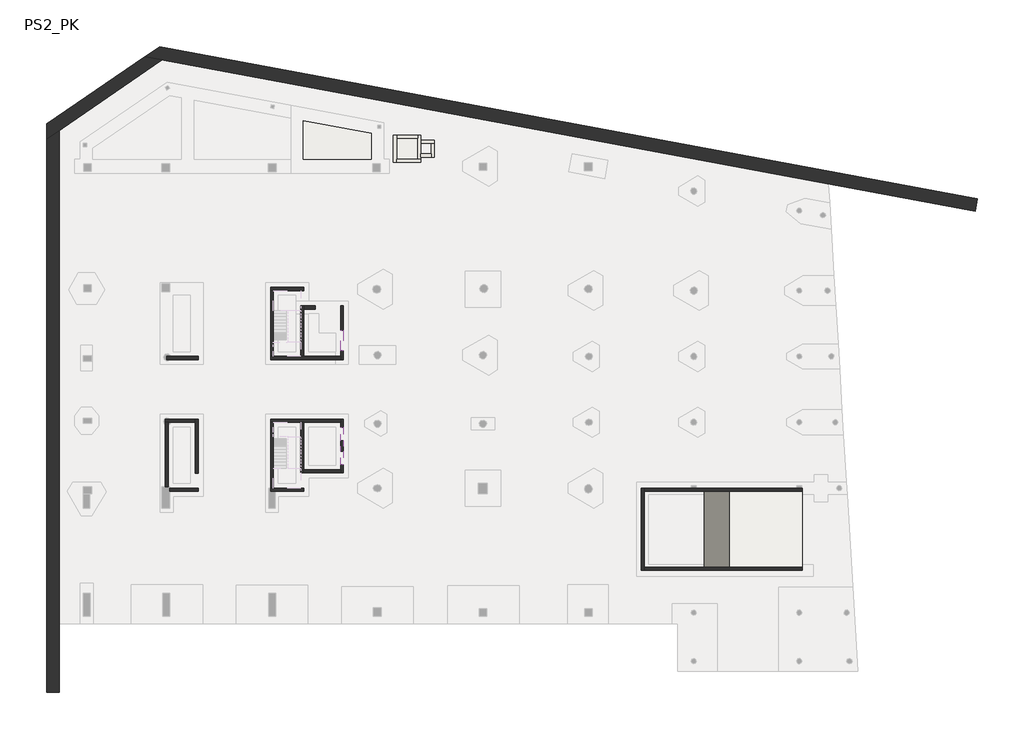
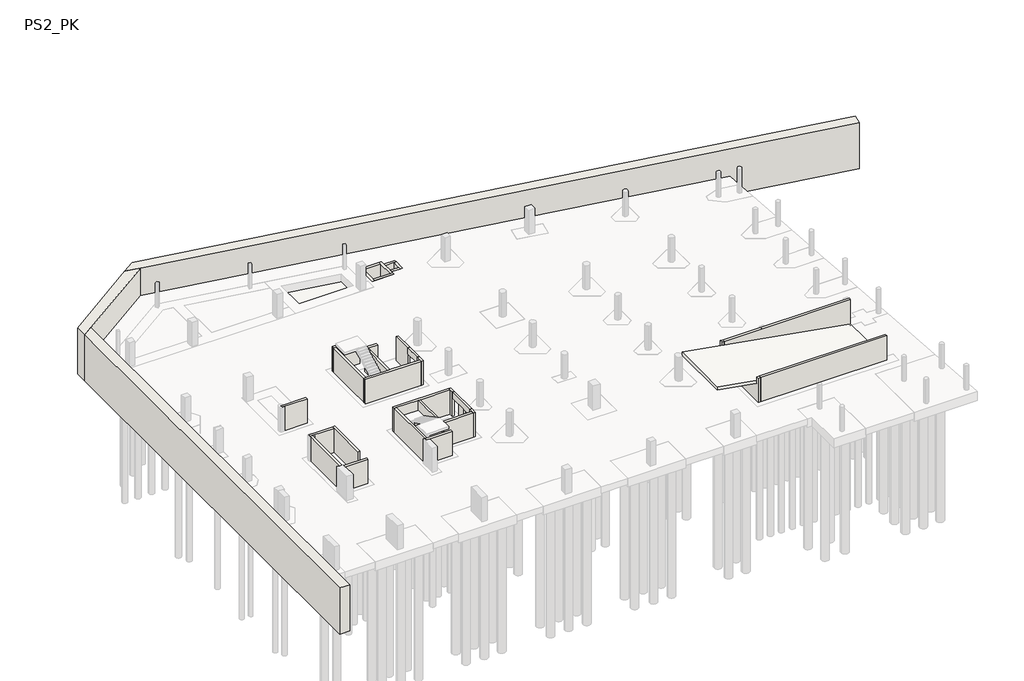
# One storey, part 1 of 10: 36 walls, 3 slabs.
"""IFC4 building model written with IfcOpenShell, lengths in millimetres."""

from ifc_helpers import new_model, si_unit, frame, origin, place, context, project, spatial, polyline, outline, extrude, faceted_brep, element, save

model = new_model("IFC4")

# Units and contexts
model_context = context("Model", 3, world=origin())
ifc_project = project(units=[si_unit("LENGTHUNIT", "METRE", prefix="MILLI")], contexts=[model_context])

# Site, building, storey
site = spatial("IfcSite", under=ifc_project)
building = spatial("IfcBuilding", under=site)
storey = spatial("IfcBuildingStorey", under=building, Name="PS2_PK", Elevation=-1600.0)

# Slabs
placement = place(None, origin())
element("IfcSlab", 1, ObjectType="Forjat_Llosa-Formigo-400", at=placement, inside=storey, context=model_context, shape_type="Brep", body=[
    faceted_brep([(16784.7045006, -12385.1038366, 1444.0923762), (16784.7044979, -5185.1036851, 1444.0923767), (34431.6189422, -5185.1036785, -1600.0), (34431.6189422, -5485.1635205, -1600.0), (36784.7068971, -5485.1664969, -2005.9076236), (36784.7068971, -12085.1664975, -2005.9076236), (34431.6189422, -12085.1635211, -1600.0), (34431.6189422, -12385.1038301, -1600.0), (36784.7068971, -5185.1036777, -1600.0), (16784.7044979, -5185.1036851, 1850.0000002), (16784.7045006, -12385.1038366, 1849.9999998), (36784.7068971, -12385.1038292, -1600.0), (36784.7068971, -12085.1664975, -1600.0), (36784.7068971, -5485.1664969, -1600.0)], [[[0, 1, 2, 3, 4, 5, 6, 7]], [[8, 9, 10, 11, 12, 13]], [[9, 8, 2, 1]], [[5, 4, 13, 12]], [[11, 10, 0, 7]], [[1, 0, 10, 9]], [[13, 3, 2, 8]], [[6, 12, 11, 7]], [[3, 13, 4]], [[12, 6, 5]]]),
])
element("IfcSlab", 2, ObjectType="Forjat_Llosa-Formigo-400", at=placement, inside=storey, context=model_context, shape_type="SweptSolid", body=[
    extrude(outline(polyline([(-4119.7553151, 28790.9345659), (-4119.7583398, 26314.885525), (-10544.7608402, 26314.8933703), (-10544.7563485, 29993.8823621), (-4119.7553151, 28790.9345659)])), frame((0.0, 0.0, -3000.0), z_axis=(0.0, 0.0, 1.0), x_axis=(1.0, 0.0, 0.0)), (0.0, 0.0, 1.0), 400.0),
])
element("IfcSlab", 3, ObjectType="Forjat_Llosa-Formigo-400", at=placement, inside=storey, context=model_context, shape_type="SweptSolid", body=[
    extrude(outline(polyline([(584.7174486, 28621.4250168), (584.7174486, 26014.879291), (-2015.2792535, 26014.879291), (-2015.2792535, 28621.4250168), (584.7174486, 28621.4250168)])), frame((0.0, 0.0, -4300.0), z_axis=(0.0, 0.0, 1.0), x_axis=(1.0, 0.0, 0.0)), (0.0, 0.0, 1.0), 400.0),
])

# Walls
element("IfcWall", 4, ObjectType="0_Muro Contención_1200", at=placement, inside=storey, context=model_context, shape_type="Brep", body=[
    faceted_brep([(-25599.5706602, 36054.4245087, -3945.0), (-23930.3270635, 35743.361696, -3945.0), (53175.6126098, 21374.7036312, -3945.0), (53175.6126098, 21374.7036312, 1850.0), (-23930.3270635, 35743.361696, 1850.0), (-25599.5706602, 36054.4245087, 1850.0), (-24198.7607616, 37014.0420818, -3945.0), (-24198.7607616, 37014.0420818, 1850.0), (53395.447645, 22554.3953525, 1850.0), (53395.447645, 22554.3953525, -3945.0)], [[[0, 1, 2, 3, 4, 5]], [[6, 7, 8, 9]], [[2, 1, 0, 6, 9]], [[3, 2, 9, 8]], [[5, 4, 3, 8, 7]], [[0, 5, 7, 6]]]),
])
element("IfcWall", 5, ObjectType="0_Muro Contención_1200", at=placement, inside=storey, context=model_context, shape_type="Brep", body=[
    faceted_brep([(-34917.5141758, 28216.6460137, -3945.0), (-33717.5141758, 29038.6998048, -3945.0), (-23930.3270635, 35743.361696, -3945.0), (-23930.3270635, 35743.361696, 1850.0), (-33717.5141758, 29038.6998048, 1850.0), (-34917.5141758, 28216.6460137, 1850.0), (-34917.5141758, 29671.2155155, -3945.0), (-34917.5141758, 29671.2155155, 1850.0), (-25599.5706602, 36054.4245087, 1850.0), (-25599.5706602, 36054.4245087, -3945.0)], [[[0, 1, 2, 3, 4, 5]], [[6, 7, 8, 9]], [[2, 1, 0, 6, 9]], [[5, 4, 3, 8, 7]], [[3, 2, 9, 8]], [[0, 5, 7, 6]]]),
])
element("IfcWall", 6, ObjectType="0_Muro Contención_1200", at=placement, inside=storey, context=model_context, shape_type="SweptSolid", body=[
    extrude(outline(polyline([(-34917.5141758, -24244.1958048), (-34917.5141758, 28216.6460137), (-33717.5141758, 29038.6998048), (-33717.5141758, -24244.1958048), (-34917.5141758, -24244.1958048)])), frame((0.0, 0.0, -3945.0), z_axis=(0.0, 0.0, 1.0), x_axis=(1.0, 0.0, 0.0)), (0.0, 0.0, 1.0), 5795.0),
])
element("IfcWall", 7, ObjectType="0_Muro Concreto_250", at=placement, inside=storey, context=model_context, shape_type="Brep", body=[
    faceted_brep([(-20790.2931065, 1664.8960619, -1600.0), (-20790.2931065, 1364.8960619, -1600.0), (-20790.2931065, -3485.1039381, -1600.0), (-20790.2931065, -3485.1039381, 1450.0), (-20790.2931065, 1364.8960619, 1450.0), (-20790.2931065, 1664.8960619, 1450.0), (-20540.2931065, 1664.8960619, -1600.0), (-20540.2931065, 1664.8960619, 1450.0), (-20540.2931065, -3485.1039381, 1450.0), (-20540.2931065, -3485.1039381, -1600.0)], [[[0, 1, 2, 3, 4, 5]], [[6, 7, 8, 9]], [[2, 1, 0, 6, 9]], [[3, 2, 9, 8]], [[5, 4, 3, 8, 7]], [[0, 5, 7, 6]]]),
])
element("IfcWall", 8, ObjectType="0_Muro Concreto_250", at=placement, inside=storey, context=model_context, shape_type="SweptSolid", body=[
    extrude(outline(polyline([(-23640.2931065, 1364.8960619), (-23390.2931065, 1364.8960619), (-23390.2931065, -4735.0918796), (-23640.2931065, -4735.0915635), (-23640.2931065, 1364.8960619)])), frame((0.0, 0.0, -1600.0), z_axis=(0.0, 0.0, 1.0), x_axis=(1.0, 0.0, 0.0)), (0.0, 0.0, 1.0), 3050.0),
])
element("IfcWall", 9, ObjectType="0_Muro Concreto_250", at=placement, inside=storey, context=model_context, shape_type="SweptSolid", body=[
    extrude(outline(polyline([(-13640.3216429, 7614.8960673), (-13640.3216429, 13864.8960687), (-13390.3216429, 13864.8960687), (-13390.3216429, 7614.8960673), (-13640.3216429, 7614.8960673)])), frame((0.0, 0.0, -1600.0), z_axis=(0.0, 0.0, 1.0), x_axis=(1.0, 0.0, 0.0)), (0.0, 0.0, 1.0), 3050.0),
])
element("IfcWall", 10, ObjectType="0_Muro Concreto_250", at=placement, inside=storey, context=model_context, shape_type="Brep", body=[
    faceted_brep([(-10790.2146087, 12414.8934136, -1600.0), (-10790.2146087, 7614.8960673, -1600.0), (-10790.2146087, 7614.8960673, 1450.0), (-10790.2146087, 12414.8934136, 1450.0), (-10540.2146087, 12414.8934136, -1600.0), (-10540.2146087, 12414.8934136, 1450.0), (-10540.2146087, 12114.8934136, 1450.0), (-10540.2146087, 7614.8960673, 1450.0), (-10540.2146087, 7614.8960673, -1600.0), (-10540.2146087, 12114.8934136, -1600.0)], [[[0, 1, 2, 3]], [[4, 5, 6, 7, 8, 9]], [[1, 0, 4, 9, 8]], [[3, 2, 7, 6, 5]], [[2, 1, 8, 7]], [[0, 3, 5, 4]]]),
])
element("IfcWall", 11, ObjectType="0_Muro Concreto_250", at=placement, inside=storey, context=model_context, shape_type="SweptSolid", body=[
    extrude(outline(polyline([(-13390.3216429, 1364.8960692), (-13390.3216429, -4885.1039323), (-13640.3216429, -4885.1039323), (-13640.3216429, 1364.8960692), (-13390.3216429, 1364.8960692)])), frame((0.0, 0.0, -1600.0), z_axis=(0.0, 0.0, 1.0), x_axis=(1.0, 0.0, 0.0)), (0.0, 0.0, 1.0), 3050.0),
])
element("IfcWall", 12, ObjectType="0_Muro Concreto_250", at=placement, inside=storey, context=model_context, shape_type="Brep", body=[
    faceted_brep([(-10540.2146087, -3435.1012772, -1600.0), (-10540.2146087, -3135.1012772, -1600.0), (-10540.2146087, 1364.8960692, -1600.0), (-10540.2146087, 1364.8960692, 1450.0), (-10540.2146087, -3135.1012772, 1450.0), (-10540.2146087, -3435.1012772, 1450.0), (-10790.2146087, -3435.1012772, -1600.0), (-10790.2146087, -3435.1012772, 1450.0), (-10790.2146087, 1364.8960692, 1450.0), (-10790.2146087, 1364.8960692, -1600.0)], [[[0, 1, 2, 3, 4, 5]], [[6, 7, 8, 9]], [[2, 1, 0, 6, 9]], [[5, 4, 3, 8, 7]], [[3, 2, 9, 8]], [[0, 5, 7, 6]]]),
])
element("IfcWall", 13, ObjectType="0_Muro Concreto_250", at=placement, inside=storey, context=model_context, shape_type="Brep", body=[
    faceted_brep([(-7015.3215886, 12414.8934351, -1600.0), (-7015.3215909, 10084.2914836, -1600.0), (-7015.3215909, 10084.2914836, 700.0), (-7015.3215909, 10084.2914836, 1450.0), (-7015.3215886, 12414.8934351, 1450.0), (-6765.3215886, 12414.8934349, -1600.0), (-6765.3215886, 12414.8934349, 1450.0), (-6765.3215909, 10084.2914833, 1450.0), (-6765.3215909, 10084.2914833, 700.0), (-6765.3215909, 10084.2914833, -1600.0)], [[[0, 1, 2, 3, 4]], [[5, 6, 7, 8, 9]], [[1, 0, 5, 9]], [[3, 2, 1, 9, 8, 7]], [[4, 3, 7, 6]], [[0, 4, 6, 5]]]),
])
element("IfcWall", 14, ObjectType="0_Muro Concreto_250", at=placement, inside=storey, context=model_context, shape_type="Brep", body=[
    faceted_brep([(-7015.3216444, 8144.2911718, -1600.0), (-7015.3216444, 7614.8960673, -1600.0), (-7015.3216444, 7314.8960673, -1600.0), (-7015.3216444, 7314.8960673, 1450.0), (-7015.3216444, 7614.8960673, 1450.0), (-7015.3216444, 8144.2911718, 1450.0), (-7015.3216444, 8144.2911718, 700.0), (-6765.3216444, 8144.2911718, -1600.0), (-6765.3216444, 8144.2911718, 700.0), (-6765.3216444, 8144.2911718, 1450.0), (-6765.3216444, 7314.8960673, 1450.0), (-6765.3216444, 7314.8960673, -1600.0)], [[[0, 1, 2, 3, 4, 5, 6]], [[7, 8, 9, 10, 11]], [[2, 1, 0, 7, 11]], [[5, 4, 3, 10, 9]], [[0, 6, 5, 9, 8, 7]], [[3, 2, 11, 10]]]),
])
element("IfcWall", 15, ObjectType="0_Muro Concreto_250", at=placement, inside=storey, context=model_context, shape_type="SweptSolid", body=[
    extrude(outline(polyline([(-6765.3247837, -405.0894087), (-6765.3247837, -1365.1031796), (-7015.3247837, -1365.1031796), (-7015.3247837, -405.0894087), (-6765.3247837, -405.0894087)])), frame((0.0, 0.0, -1600.0), z_axis=(0.0, 0.0, 1.0), x_axis=(1.0, 0.0, 0.0)), (0.0, 0.0, 1.0), 2300.0),
])
element("IfcWall", 16, ObjectType="0_Muro Concreto_250", at=placement, inside=storey, context=model_context, shape_type="Brep", body=[
    faceted_brep([(-6765.3247835, 894.9105912, -1600.0), (-6765.3196406, 1664.8960692, -1600.0), (-6765.3196406, 1664.8960692, 1450.0), (-6765.3247835, 894.9105912, 1450.0), (-7015.3247835, 894.912261, -1600.0), (-7015.3247835, 894.912261, 1450.0), (-7015.3216444, 1364.8960692, 1450.0), (-7015.3196406, 1664.8960692, 1450.0), (-7015.3196406, 1664.8960692, -1600.0), (-7015.3216444, 1364.8960692, -1600.0)], [[[0, 1, 2, 3]], [[4, 5, 6, 7, 8, 9]], [[1, 0, 4, 9, 8]], [[3, 2, 7, 6, 5]], [[0, 3, 5, 4]], [[2, 1, 8, 7]]]),
])
element("IfcWall", 17, ObjectType="0_Muro Concreto_250", at=placement, inside=storey, context=model_context, shape_type="Brep", body=[
    faceted_brep([(-6765.3247845, -3435.1012772, -1600.0), (-6765.3247845, -2665.1031808, -1600.0), (-6765.3247845, -2665.1031808, 700.0), (-6765.3247845, -2665.1031808, 1450.0), (-6765.3247845, -3435.1012772, 1450.0), (-7015.3247845, -3435.1012772, -1600.0), (-7015.3247845, -3435.1012772, 1450.0), (-7015.3247845, -3135.1012772, 1450.0), (-7015.3247845, -2665.1031808, 1450.0), (-7015.3247845, -2665.1031808, 700.0), (-7015.3247845, -2665.1031808, -1600.0), (-7015.3247845, -3135.1012772, -1600.0)], [[[0, 1, 2, 3, 4]], [[5, 6, 7, 8, 9, 10, 11]], [[1, 0, 5, 11, 10]], [[3, 2, 1, 10, 9, 8]], [[4, 3, 8, 7, 6]], [[0, 4, 6, 5]]]),
])
element("IfcWall", 18, ObjectType="0_Muro Concreto_250", at=placement, inside=storey, context=model_context, shape_type="SweptSolid", body=[
    extrude(outline(polyline([(-7015.3216444, 8144.2911718), (-7015.3216444, 10084.2914833), (-6765.3216444, 10084.2914833), (-6765.3216444, 8144.2911718), (-7015.3216444, 8144.2911718)])), frame((0.0, 0.0, 700.0), z_axis=(0.0, 0.0, 1.0), x_axis=(1.0, 0.0, 0.0)), (0.0, 0.0, 1.0), 750.0),
])
element("IfcWall", 19, ObjectType="0_Muro Concreto_250", at=placement, inside=storey, context=model_context, shape_type="Brep", body=[
    faceted_brep([(-6765.3247837, -2665.1031808, 700.0), (-6765.3247837, -1365.1031796, 700.0), (-6765.3247837, -405.0894087, 700.0), (-6765.3247837, 894.9114261, 700.0), (-6765.3247837, 894.9114261, 1450.0), (-6765.3247837, -2665.1031808, 1450.0), (-7015.3247837, -2665.1031808, 700.0), (-7015.3247837, -2665.1031808, 1450.0), (-7015.3247837, 894.9114261, 1450.0), (-7015.3247837, 894.9114261, 700.0), (-7015.3247837, -405.0894087, 700.0), (-7015.3247837, -1365.1031796, 700.0)], [[[0, 1, 2, 3, 4, 5]], [[6, 7, 8, 9, 10, 11]], [[3, 2, 1, 0, 6, 11, 10, 9]], [[4, 3, 9, 8]], [[5, 4, 8, 7]], [[0, 5, 7, 6]]]),
])
element("IfcWall", 20, ObjectType="0_Muro Concreto_300", at=placement, inside=storey, context=model_context, shape_type="Brep", body=[
    faceted_brep([(-23640.2931065, 1364.8960619, -1600.0), (-23390.2931065, 1364.8960619, -1600.0), (-20790.2931065, 1364.8960619, -1600.0), (-20790.2931065, 1364.8960619, 1450.0), (-23390.2931065, 1364.8960619, 1450.0), (-23640.2931065, 1364.8960619, 1450.0), (-23640.2931065, 1664.8960619, -1600.0), (-23640.2931065, 1664.8960619, 1450.0), (-20790.2931065, 1664.8960619, 1450.0), (-20790.2931065, 1664.8960619, -1600.0)], [[[0, 1, 2, 3, 4, 5]], [[6, 7, 8, 9]], [[2, 1, 0, 6, 9]], [[5, 4, 3, 8, 7]], [[3, 2, 9, 8]], [[0, 5, 7, 6]]]),
])
element("IfcWall", 21, ObjectType="0_Muro Concreto_300", at=placement, inside=storey, context=model_context, shape_type="SweptSolid", body=[
    extrude(outline(polyline([(-20540.2931065, -4885.1039382), (-20540.2931065, -5185.1039382), (-23215.3187332, -5185.1039382), (-23215.3183538, -4885.1039382), (-20540.2931065, -4885.1039382)])), frame((0.0, 0.0, -1600.0), z_axis=(0.0, 0.0, 1.0), x_axis=(1.0, 0.0, 0.0)), (0.0, 0.0, 1.0), 3050.0),
])
element("IfcWall", 22, ObjectType="0_Muro Concreto_300", at=placement, inside=storey, context=model_context, shape_type="SweptSolid", body=[
    extrude(outline(polyline([(-20540.3026409, 7314.8960618), (-23515.2931065, 7314.8960618), (-23515.2931065, 7614.8960618), (-20540.3026409, 7614.8960618), (-20540.3026409, 7314.8960618)])), frame((0.0, 0.0, -1600.0), z_axis=(0.0, 0.0, 1.0), x_axis=(1.0, 0.0, 0.0)), (0.0, 0.0, 1.0), 3050.0),
])
element("IfcWall", 23, ObjectType="0_Muro Concreto_300", at=placement, inside=storey, context=model_context, shape_type="Brep", body=[
    faceted_brep([(-7015.3216444, 7614.8960673, -1600.0), (-10540.2146087, 7614.8960673, -1600.0), (-10790.2146087, 7614.8960673, -1600.0), (-13390.3216429, 7614.8960673, -1600.0), (-13640.3216429, 7614.8960673, -1600.0), (-13640.3216429, 7614.8960673, 1450.0), (-13390.3216429, 7614.8960673, 1450.0), (-10790.2146087, 7614.8960673, 1450.0), (-10540.2146087, 7614.8960673, 1450.0), (-7015.3216444, 7614.8960673, 1450.0), (-7015.3216444, 7314.8960673, -1600.0), (-7015.3216444, 7314.8960673, 1450.0), (-13640.3216429, 7314.8960673, 1450.0), (-13640.3216429, 7314.8960673, -1600.0)], [[[0, 1, 2, 3, 4, 5, 6, 7, 8, 9]], [[10, 11, 12, 13]], [[4, 3, 2, 1, 0, 10, 13]], [[9, 8, 7, 6, 5, 12, 11]], [[5, 4, 13, 12]], [[0, 9, 11, 10]]]),
])
element("IfcWall", 24, ObjectType="0_Muro Concreto_300", at=placement, inside=storey, context=model_context, shape_type="Brep", body=[
    faceted_brep([(-10540.3248355, 14164.8960687, -1600.0), (-13640.3216429, 14164.8960687, -1600.0), (-13640.3216429, 14164.8960687, 1450.0), (-10540.3248355, 14164.8960687, 1450.0), (-10540.3248355, 13864.8960687, -1600.0), (-10540.3248355, 13864.8960687, 1450.0), (-13390.3216429, 13864.8960687, 1450.0), (-13640.3216429, 13864.8960687, 1450.0), (-13640.3216429, 13864.8960687, -1600.0), (-13390.3216429, 13864.8960687, -1600.0)], [[[0, 1, 2, 3]], [[4, 5, 6, 7, 8, 9]], [[1, 0, 4, 9, 8]], [[3, 2, 7, 6, 5]], [[0, 3, 5, 4]], [[2, 1, 8, 7]]]),
])
element("IfcWall", 25, ObjectType="0_Muro Concreto_300", at=placement, inside=storey, context=model_context, shape_type="SweptSolid", body=[
    extrude(outline(polyline([(-9415.5635412, 12114.8934136), (-10540.2146087, 12114.8934136), (-10540.2146087, 12414.8934136), (-9415.5635412, 12414.8934136), (-9415.5635412, 12114.8934136)])), frame((0.0, 0.0, -1600.0), z_axis=(0.0, 0.0, 1.0), x_axis=(1.0, 0.0, 0.0)), (0.0, 0.0, 1.0), 3050.0),
])
element("IfcWall", 26, ObjectType="0_Muro Concreto_300", at=placement, inside=storey, context=model_context, shape_type="Brep", body=[
    faceted_brep([(-7015.3196406, 1664.8960692, -1600.0), (-13640.3216429, 1664.8960692, -1600.0), (-13640.3216429, 1664.8960692, 1450.0), (-7015.3196406, 1664.8960692, 1450.0), (-7015.3216444, 1364.8960692, -1600.0), (-7015.3216444, 1364.8960692, 1450.0), (-10540.2146087, 1364.8960692, 1450.0), (-10790.2146087, 1364.8960692, 1450.0), (-13390.3216429, 1364.8960692, 1450.0), (-13640.3216429, 1364.8960692, 1450.0), (-13640.3216429, 1364.8960692, -1600.0), (-13390.3216429, 1364.8960692, -1600.0), (-10790.2146087, 1364.8960692, -1600.0), (-10540.2146087, 1364.8960692, -1600.0)], [[[0, 1, 2, 3]], [[4, 5, 6, 7, 8, 9, 10, 11, 12, 13]], [[1, 0, 4, 13, 12, 11, 10]], [[3, 2, 9, 8, 7, 6, 5]], [[2, 1, 10, 9]], [[0, 3, 5, 4]]]),
])
element("IfcWall", 27, ObjectType="0_Muro Concreto_300", at=placement, inside=storey, context=model_context, shape_type="Brep", body=[
    faceted_brep([(-10540.3248425, -4885.1039323, -1600.0), (-13390.3216429, -4885.1039323, -1600.0), (-13640.3216429, -4885.1039323, -1600.0), (-13640.3216429, -4885.1039323, 1450.0), (-13390.3216429, -4885.1039323, 1450.0), (-10540.3248425, -4885.1039323, 1450.0), (-10540.3248425, -5185.1039323, -1600.0), (-10540.3248425, -5185.1039323, 1450.0), (-13215.2931104, -5185.1039323, 1450.0), (-13640.3216429, -5185.1039323, 1450.0), (-13640.3216429, -5185.1039323, -1600.0), (-13215.2931104, -5185.1039323, -1600.0)], [[[0, 1, 2, 3, 4, 5]], [[6, 7, 8, 9, 10, 11]], [[2, 1, 0, 6, 11, 10]], [[5, 4, 3, 9, 8, 7]], [[0, 5, 7, 6]], [[3, 2, 10, 9]]]),
])
element("IfcWall", 28, ObjectType="0_Muro Concreto_300", at=placement, inside=storey, context=model_context, shape_type="SweptSolid", body=[
    extrude(outline(polyline([(-7015.3247845, -3435.1012772), (-10540.2146087, -3435.1012772), (-10540.2146087, -3135.1012772), (-7015.3247845, -3135.1012772), (-7015.3247845, -3435.1012772)])), frame((0.0, 0.0, -1600.0), z_axis=(0.0, 0.0, 1.0), x_axis=(1.0, 0.0, 0.0)), (0.0, 0.0, 1.0), 3050.0),
])
element("IfcWall", 29, ObjectType="0_Muro Concreto_300", at=placement, inside=storey, context=model_context, shape_type="Brep", body=[
    faceted_brep([(21784.7068974, -12685.103933, -1600.0), (21784.7068974, -12385.103933, -1600.0), (21784.7068974, -5185.1039321, -1600.0), (21784.7068974, -4885.1039321, -1600.0), (21784.7068974, -4885.1039321, 1450.0), (21784.7068974, -5185.1036832, 1450.0), (21784.7068974, -5185.1036832, 581.5920662), (21784.7068974, -12385.1038347, 581.5920662), (21784.7068974, -12385.1038347, 1450.0), (21784.7068974, -12685.103933, 1450.0), (21484.7068974, -12685.103933, -1600.0), (21484.7068974, -12685.103933, 1450.0), (21484.7068974, -12385.1038349, 1450.0), (21484.7068974, -12385.1038349, 633.34206), (21484.7068974, -5185.1036833, 633.34206), (21484.7068974, -5185.1036833, 1450.0), (21484.7068974, -4885.1039321, 1450.0), (21484.7068974, -4885.1039321, -1600.0)], [[[0, 1, 2, 3, 4, 5, 6, 7, 8, 9]], [[10, 11, 12, 13, 14, 15, 16, 17]], [[3, 2, 1, 0, 10, 17]], [[0, 9, 11, 10]], [[4, 3, 17, 16]], [[5, 4, 16, 15]], [[5, 15, 14, 6]], [[9, 8, 12, 11]], [[12, 8, 7, 13]], [[7, 6, 14, 13]]]),
])
element("IfcWall", 30, ObjectType="0_Muro Concreto_300", at=placement, inside=storey, context=model_context, shape_type="Brep", body=[
    faceted_brep([(21784.7068974, -5185.1039321, -1600.0), (33084.706898, -5185.1039321, -1600.0), (33384.706898, -5185.1039321, -1600.0), (36784.7068991, -5185.1039321, -1600.0), (36784.7068991, -5185.1039321, 1450.0), (21784.7068974, -5185.1039321, 1450.0), (21784.7068974, -5185.1039321, 581.5920662), (21784.7068974, -4885.1039321, -1600.0), (21784.7068974, -4885.1039321, 1450.0), (36784.7068991, -4885.1039321, 1450.0), (36784.7068991, -4885.1039321, -1600.0)], [[[0, 1, 2, 3, 4, 5, 6]], [[7, 8, 9, 10]], [[3, 2, 1, 0, 7, 10]], [[4, 3, 10, 9]], [[5, 4, 9, 8]], [[0, 6, 5, 8, 7]]]),
])
element("IfcWall", 31, ObjectType="0_Muro Concreto_300", at=placement, inside=storey, context=model_context, shape_type="Brep", body=[
    faceted_brep([(21784.7068974, -12685.103933, -1600.0), (36784.7068991, -12685.103933, -1600.0), (36784.7068991, -12685.103933, 1450.0), (21784.7068974, -12685.103933, 1450.0), (21784.7068974, -12385.103933, -1600.0), (21784.7068974, -12385.103933, 581.5920662), (21784.7068974, -12385.103933, 1450.0), (36784.7068991, -12385.103933, 1450.0), (36784.7068991, -12385.103933, -1600.0), (33384.706898, -12385.103933, -1600.0), (33084.706898, -12385.103933, -1600.0)], [[[0, 1, 2, 3]], [[4, 5, 6, 7, 8, 9, 10]], [[1, 0, 4, 10, 9, 8]], [[2, 1, 8, 7]], [[3, 2, 7, 6]], [[0, 3, 6, 5, 4]]]),
])
element("IfcWall", 32, ObjectType="0_Muro Concreto_300", at=placement, inside=storey, context=model_context, shape_type="Brep", body=[
    faceted_brep([(33384.706898, -12385.103933, -1600.0), (33384.706898, -5185.1039321, -1600.0), (33384.706898, -5185.1039321, -1419.407694), (33384.706898, -12385.1038305, -1419.407694), (33084.706898, -12385.103933, -1600.0), (33084.706898, -12385.103933, -1367.6577002), (33084.706898, -5185.103679, -1367.6577002), (33084.706898, -5185.1039321, -1600.0)], [[[0, 1, 2, 3]], [[4, 5, 6, 7]], [[1, 0, 4, 7]], [[0, 3, 5, 4]], [[2, 1, 7, 6]], [[3, 2, 6, 5]]]),
])
element("IfcWall", 33, ObjectType="0_Muro Concreto_300", at=placement, inside=storey, context=model_context, shape_type="Brep", body=[
    faceted_brep([(-2015.2792535, 28621.4250168, -3900.0), (-2015.2825509, 26014.8825801, -3900.0), (-2015.2825509, 26014.8825801, -1600.0), (-2015.2792535, 28621.4250168, -1600.0), (-1715.2792535, 28621.4246373, -3900.0), (-1715.2792535, 28621.4246373, -1600.0), (-1715.279633, 28321.4246373, -1600.0), (-1715.2821714, 26314.8822005, -1600.0), (-1715.2825509, 26014.8822005, -1600.0), (-1715.2825509, 26014.8822005, -3900.0), (-1715.2821714, 26314.8822005, -3900.0), (-1715.279633, 28321.4246373, -3900.0)], [[[0, 1, 2, 3]], [[4, 5, 6, 7, 8, 9, 10, 11]], [[1, 0, 4, 11, 10, 9]], [[3, 2, 8, 7, 6, 5]], [[2, 1, 9, 8]], [[0, 3, 5, 4]]]),
])
element("IfcWall", 34, ObjectType="0_Muro Concreto_300", at=placement, inside=storey, context=model_context, shape_type="Brep", body=[
    faceted_brep([(-1715.2825509, 26014.8822005, -3900.0), (584.7174486, 26014.879291, -3900.0), (584.7174486, 26014.879291, -1600.0), (-1715.2825509, 26014.8822005, -1600.0), (-1715.2821714, 26314.8822005, -3900.0), (-1715.2821714, 26314.8822005, -1600.0), (284.7178281, 26314.8796705, -1600.0), (584.7178281, 26314.879291, -1600.0), (584.7178281, 26314.879291, -3900.0), (284.7178281, 26314.8796705, -3900.0)], [[[0, 1, 2, 3]], [[4, 5, 6, 7, 8, 9]], [[1, 0, 4, 9, 8]], [[3, 2, 7, 6, 5]], [[2, 1, 8, 7]], [[0, 3, 5, 4]]]),
])
element("IfcWall", 35, ObjectType="0_Muro Concreto_300", at=placement, inside=storey, context=model_context, shape_type="Brep", body=[
    faceted_brep([(584.7178281, 26314.879291, -3900.0), (584.7207465, 28621.4217283, -3900.0), (584.7207465, 28621.4217283, -1600.0), (584.7201154, 28122.6001377, -1600.0), (584.7197358, 27822.6001377, -1600.0), (584.7184705, 26822.6001382, -1600.0), (584.718091, 26522.6001382, -1600.0), (584.7178281, 26314.879291, -1600.0), (284.7178281, 26314.8796705, -3900.0), (284.7178281, 26314.8796705, -1600.0), (284.720367, 28321.4221077, -1600.0), (284.7207465, 28621.4221077, -1600.0), (284.7207465, 28621.4221077, -3900.0), (284.720367, 28321.4221077, -3900.0)], [[[0, 1, 2, 3, 4, 5, 6, 7]], [[8, 9, 10, 11, 12, 13]], [[1, 0, 8, 13, 12]], [[7, 6, 5, 4, 3, 2, 11, 10, 9]], [[0, 7, 9, 8]], [[2, 1, 12, 11]]]),
])
element("IfcWall", 36, ObjectType="0_Muro Concreto_300", at=placement, inside=storey, context=model_context, shape_type="SweptSolid", body=[
    extrude(outline(polyline([(-1715.2792535, 28621.4246373), (284.7207465, 28621.4221077), (284.720367, 28321.4221077), (-1715.279633, 28321.4246373), (-1715.2792535, 28621.4246373)])), frame((0.0, 0.0, -3900.0), z_axis=(0.0, 0.0, 1.0), x_axis=(1.0, 0.0, 0.0)), (0.0, 0.0, 1.0), 2300.0),
])
element("IfcWall", 37, ObjectType="0_Muro Concreto_300", at=placement, inside=storey, context=model_context, shape_type="Brep", body=[
    faceted_brep([(1884.7201149, 28122.5984937, -2550.0), (584.7201154, 28122.6001377, -2550.0), (584.7201154, 28122.6001377, -1600.0), (1884.7201149, 28122.5984937, -1600.0), (1884.7197355, 27822.5984937, -2550.0), (1884.7197355, 27822.5984937, -1600.0), (1584.7197355, 27822.5988731, -1600.0), (584.7197358, 27822.6001377, -1600.0), (584.7197358, 27822.6001377, -2550.0), (1584.7197355, 27822.5988731, -2550.0)], [[[0, 1, 2, 3]], [[4, 5, 6, 7, 8, 9]], [[1, 0, 4, 9, 8]], [[3, 2, 7, 6, 5]], [[2, 1, 8, 7]], [[0, 3, 5, 4]]]),
])
element("IfcWall", 38, ObjectType="0_Muro Concreto_300", at=placement, inside=storey, context=model_context, shape_type="Brep", body=[
    faceted_brep([(1884.7180916, 26522.598493, -2550.0), (1884.7197355, 27822.5984937, -2550.0), (1884.7197355, 27822.5984937, -1600.0), (1884.7180916, 26522.598493, -1600.0), (1584.7180916, 26522.5988726, -2550.0), (1584.7180916, 26522.5988726, -1600.0), (1584.718471, 26822.5988726, -1600.0), (1584.7197355, 27822.5988731, -1600.0), (1584.7197355, 27822.5988731, -2550.0), (1584.718471, 26822.5988726, -2550.0)], [[[0, 1, 2, 3]], [[4, 5, 6, 7, 8, 9]], [[1, 0, 4, 9, 8]], [[3, 2, 7, 6, 5]], [[2, 1, 8, 7]], [[0, 3, 5, 4]]]),
])
element("IfcWall", 39, ObjectType="0_Muro Concreto_300", at=placement, inside=storey, context=model_context, shape_type="SweptSolid", body=[
    extrude(outline(polyline([(1584.7180916, 26522.5988726), (584.718091, 26522.6001382), (584.7184705, 26822.6001382), (1584.718471, 26822.5988726), (1584.7180916, 26522.5988726)])), frame((0.0, 0.0, -2550.0), z_axis=(0.0, 0.0, 1.0), x_axis=(1.0, 0.0, 0.0)), (0.0, 0.0, 1.0), 950.0),
])

save(model, "model.ifc")
